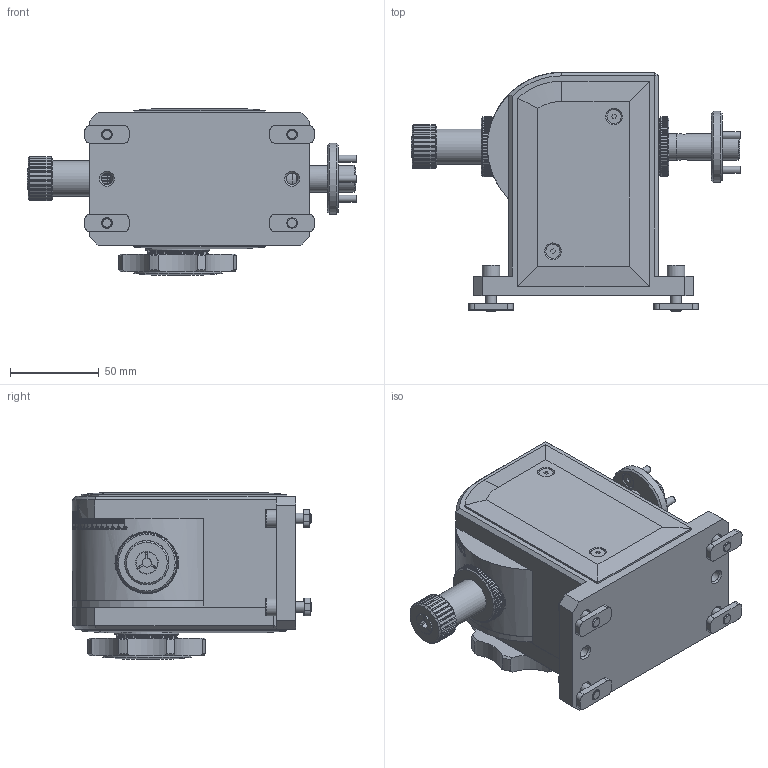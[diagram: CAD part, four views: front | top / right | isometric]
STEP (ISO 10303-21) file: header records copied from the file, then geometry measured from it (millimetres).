
FILE_DESCRIPTION(/* description */ (''),/* implementation_level */ '2;1');
FILE_NAME(/* name */ 'G:\Seroe_0\TPP_LS-01-00-000_v_exam.stp',/* time_stamp */ '2021-04-19T10:42:52+02:00',/* author */ ('jakefre'),/* organization */ (''),/* preprocessor_version */ 'ST-DEVELOPER v18.1',/* originating_system */ 'Autodesk Inventor 2020',/* authorisation */ '');
FILE_SCHEMA (('AUTOMOTIVE_DESIGN { 1 0 10303 214 3 1 1 }'));
Products named in the file (41): TPP-LS-10-000; TPP_LS-01-01-001; TPP_LS-01-01-002; TPP_LS-01-01-003; TPP_LS-01-01-004; TPP_LS-01-01-005; TPP_LS-01-02-001; TPP_LS-01-02-002; TPP_LS-01-02-003; TPP_LS-01-02-004; TPP_LS-01-02-005; TPP_LS-01-02-006; TPP_LS-01-03-001; TPP_LS-01-03-003; TPP_LS-01-03-005; TPP_LS-01-03-008; TPP_LS-01-04-001; TPP_LS-01-04-002; TPP_LS-01-04-003; Part6; BN272 M3x4; Part4; Part5; 61804-2RZ; 61804-2RZ_1; 61804-2RZ_2; 61804-2RZ_3; 4100-1/16; 209001 0005; BN7 M6x20; 6706; 6706_1; 6706_2; 6706_3; BN855 ø4x14; Part2; Part1; Part1_1; Part1_2; Part1_2_1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
Assembly tree (127 placements, depth 3):
  TPP-LS-10-000
    TPP_LS-01-01-001
    TPP_LS-01-01-002
    TPP_LS-01-01-003
    TPP_LS-01-01-004
    TPP_LS-01-01-005
    TPP_LS-01-02-001
    TPP_LS-01-02-002
    TPP_LS-01-02-003
    TPP_LS-01-02-004
    TPP_LS-01-02-005
    TPP_LS-01-02-006
    TPP_LS-01-03-001
    TPP_LS-01-03-003
    TPP_LS-01-03-005
    TPP_LS-01-03-008
    TPP_LS-01-04-001
    TPP_LS-01-04-002
    TPP_LS-01-04-003
    Part6
    Part5  x7
    Part4  x4
    BN272 M3x4
    BN20 M4x16  x6
    61804-2RZ
      61804-2RZ_1
      61804-2RZ_2
      61804-2RZ_3  x14
    4100-1/16  x3
    209001 0005  x4
    BN7 M6x20  x4
    6706
      6706_1
      6706_2
      6706_3  x30
    BN855 ø4x14
    Part2
    Part1
      Part1_1
      Part1_2
      Part1_2_1  x24
Bounding box: 185.76 x 135 x 94 mm (x, y, z)
Volume: 848483 mm3; surface area: 234674 mm2
Topology: 124 solids, 124 shells, 3530 faces, 10001 edges, 6761 vertices
Faces by surface type: plane 1879, cylinder 617, bspline 540, cone 375, sphere 68, torus 51
Full cylindrical faces by diameter (mm): 2 x5, 2.5 x1, 3 x1, 3.3 x10, 4 x36, 4.5 x8, 5 x4, 5.5 x1, 6 x6, 6.4 x6, 8 x16, 9 x1, 10 x7, 11.5 x1, 12 x2, 12.2 x2, 12.8 x1, 13.3 x3, 15 x3, 15.4 x1, 17.5 x1, 18 x1, 19 x2, 20 x4, 20.4 x1, 20.5 x1, 22 x2, 23 x3, 23.85 x4, 24 x1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
Entity records: 156759 total; most frequent: CARTESIAN_POINT 86821, ORIENTED_EDGE 15246, DIRECTION 12928, EDGE_CURVE 7623, VERTEX_POINT 5180, AXIS2_PLACEMENT_3D 4783, LINE 3362, VECTOR 3362
